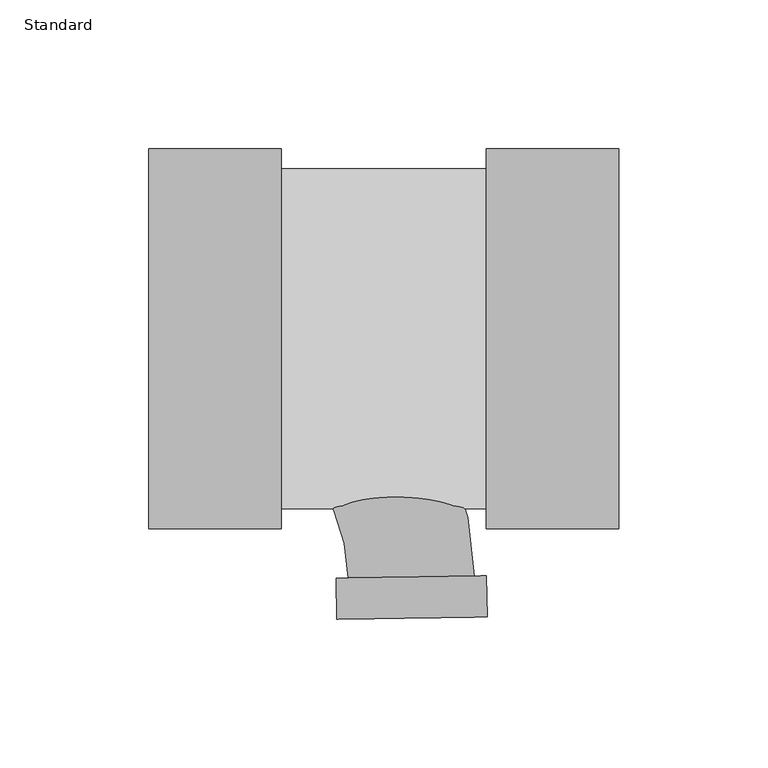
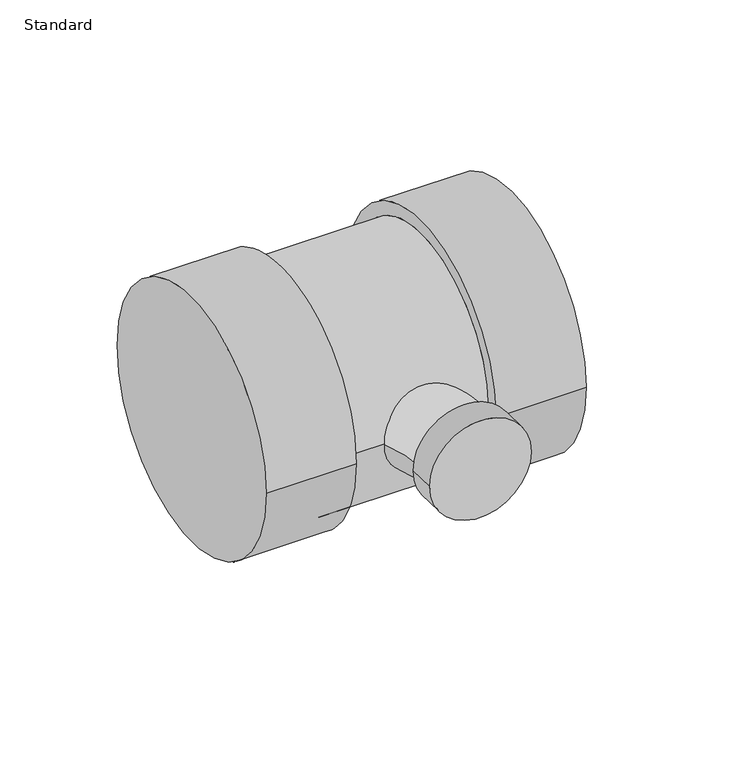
"""IFC4 building model written with IfcOpenShell, lengths in millimetres: pipe fitting geometry, EG-RCAN Té sanitaire de réduction - PVC - Nom. 40 - DWV : Standard."""

from ifc_helpers import new_model, si_unit, point, frame, origin, place, context, project, spatial, circle_curve, ellipse_curve, trimmed, source, transform, mapped, element, save
from ifc_brep_helpers import plane_surface, cylinder_surface, revolved_surface, advanced_brep


def standard_a27af633(model_context):
    return source(origin(), model_context, "Body", "AdvancedBrep", [
        advanced_brep(
        [(26.4644105, -63.754, 0.0), (26.4644105, 63.754, 0.0), (26.4644105, -57.15, 0.0), (26.4644105, 57.15, 0.0), (70.9144105, -63.754, 0.0), (70.9144105, 63.754, 0.0), (-42.4599062, 57.15, 0.0), (-42.4599062, -57.15, 0.0), (-86.9099063, -63.754, 0.0), (-86.9099062, 63.754, 0.0), (-42.4599063, -63.754, 0.0), (-42.4599062, 63.754, 0.0)],
        [
            (0, 1, circle_curve(frame((26.4644105, 0.0, 0.0), z_axis=(-1.0, 0.0, 0.0), x_axis=(0.0, 1.0, 0.0)), 63.754)),
            (1, 0, circle_curve(frame((26.4644105, 0.0, 0.0), z_axis=(-1.0, 0.0, 0.0), x_axis=(0.0, 1.0, 0.0)), 63.754)),
            (2, 3, circle_curve(frame((26.4644105, 0.0, 0.0), z_axis=(1.0, 0.0, 0.0), x_axis=(0.0, 0.0, -1.0)), 57.15)),
            (3, 2, circle_curve(frame((26.4644105, 0.0, 0.0), z_axis=(1.0, 0.0, 0.0), x_axis=(0.0, 0.0, 1.0)), 57.15)),
            (4, 5, circle_curve(frame((70.9144105, 0.0, 0.0), z_axis=(1.0, 0.0, 0.0), x_axis=(0.0, 1.0, 0.0)), 63.754)),
            (5, 4, circle_curve(frame((70.9144105, 0.0, 0.0), z_axis=(1.0, 0.0, 0.0), x_axis=(0.0, 1.0, 0.0)), 63.754)),
            (0, 4),
            (5, 1),
            (6, 3),
            (2, 7),
            (7, 6, circle_curve(frame((-42.4599063, 0.0, 0.0), z_axis=(1.0, 0.0, 0.0), x_axis=(0.0, 0.0, -1.0)), 57.15)),
            (6, 7, circle_curve(frame((-42.4599062, 0.0, 0.0), z_axis=(1.0, 0.0, 0.0), x_axis=(0.0, 0.0, 1.0)), 57.15)),
            (8, 9, circle_curve(frame((-86.9099062, 0.0, 0.0), z_axis=(-1.0, 0.0, 0.0), x_axis=(0.0, 1.0, 0.0)), 63.754)),
            (9, 8, circle_curve(frame((-86.9099062, 0.0, 0.0), z_axis=(-1.0, 0.0, 0.0), x_axis=(0.0, 1.0, 0.0)), 63.754)),
            (10, 11, circle_curve(frame((-42.4599062, 0.0, 0.0), z_axis=(1.0, 0.0, 0.0), x_axis=(0.0, 1.0, 0.0)), 63.754)),
            (11, 10, circle_curve(frame((-42.4599062, 0.0, 0.0), z_axis=(1.0, 0.0, 0.0), x_axis=(0.0, 1.0, 0.0)), 63.754)),
            (8, 10),
            (11, 9),
        ],
        [
            plane_surface(frame((26.4644105, 0.0, 0.0), z_axis=(-1.0, 0.0, 0.0), x_axis=(0.0, 0.0, 1.0))),
            plane_surface(frame((70.9144105, 0.0, 0.0), z_axis=(1.0, 0.0, 0.0), x_axis=(0.0, 0.0, 1.0))),
            cylinder_surface(frame((26.4644105, 0.0, 0.0), z_axis=(-1.0, 0.0, 0.0), x_axis=(0.0, 1.0, 0.0)), 63.754),
            cylinder_surface(frame((-42.4599062, 0.0, 0.0), z_axis=(1.0, 0.0, 0.0), x_axis=(0.0, 0.0, -1.0)), 57.15),
            cylinder_surface(frame((-42.4599062, 0.0, 0.0), z_axis=(1.0, 0.0, 0.0), x_axis=(0.0, 0.0, 1.0)), 57.15),
            plane_surface(frame((-86.9099062, 0.0, 0.0), z_axis=(-1.0, 0.0, 0.0), x_axis=(0.0, 0.0, 1.0))),
            plane_surface(frame((-42.4599062, 0.0, 0.0), z_axis=(1.0, 0.0, 0.0), x_axis=(0.0, 0.0, 1.0))),
            cylinder_surface(frame((-86.9099062, 0.0, 0.0), z_axis=(-1.0, 0.0, 0.0), x_axis=(0.0, 1.0, 0.0)), 63.754),
        ],
        [
            (0, [[1, 2], [3, 4]]),
            (1, [[5, 6]]),
            (2, [[-1, 7, -6, 8]]),
            (2, [[-2, -8, -5, -7]]),
            (3, [[9, -3, 10, 11]]),
            (4, [[-9, 12, -10, -4]]),
            (5, [[13, 14]]),
            (6, [[15, 16], [-11, -12]]),
            (7, [[-13, 17, -16, 18]]),
            (7, [[-14, -18, -15, -17]]),
        ],
    ),
        advanced_brep(
        [(-24.0641254, -80.3975774, 0.0), (26.4644105, -79.6397361, 0.0), (22.4018205, -79.7006679, 0.0), (-20.0015355, -80.3366455, 0.0), (-23.8580675, -94.1363447, 0.0), (26.6704684, -93.3785034, 0.0), (-80.0276562, -21.2040625, 0.0), (-80.0276562, 21.2040625, 0.0)],
        [
            (0, 1, circle_curve(frame((1.2001425, -80.0186567, 0.0), z_axis=(-0.014996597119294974, 0.9998875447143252, 0.0), x_axis=(0.9998875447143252, 0.014996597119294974, 0.0)), 25.2671094)),
            (1, 0, circle_curve(frame((1.2001425, -80.0186567, 0.0), z_axis=(-0.014996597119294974, 0.9998875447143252, 0.0), x_axis=(0.9998875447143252, 0.014996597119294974, 0.0)), 25.2671094)),
            (2, 3, circle_curve(frame((1.2001425, -80.0186567, 0.0), z_axis=(0.014996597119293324, -0.9998875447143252, 0.0), x_axis=(0.9998875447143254, 0.01499659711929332, 0.0)), 21.2040625)),
            (3, 2, circle_curve(frame((1.2001425, -80.0186567, 0.0), z_axis=(0.014996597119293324, -0.9998875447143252, 0.0), x_axis=(0.9998875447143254, 0.01499659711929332, 0.0)), 21.2040625)),
            (4, 5, circle_curve(frame((1.4062005, -93.757424, 0.0), z_axis=(0.014996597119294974, -0.9998875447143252, 0.0), x_axis=(0.9998875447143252, 0.014996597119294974, 0.0)), 25.2671094)),
            (5, 4, circle_curve(frame((1.4062005, -93.757424, 0.0), z_axis=(0.014996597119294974, -0.9998875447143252, 0.0), x_axis=(0.9998875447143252, 0.014996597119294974, 0.0)), 25.2671094)),
            (0, 4),
            (5, 1),
            (6, 7, circle_curve(frame((-80.0276562, 0.0, 0.0), z_axis=(-1.0000000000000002, 0.0, 0.0), x_axis=(0.0, 1.0, 0.0)), 21.2040625)),
            (7, 6, circle_curve(frame((-80.0276562, 0.0, 0.0), z_axis=(-1.0000000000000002, 0.0, 0.0), x_axis=(0.0, 1.0, 0.0)), 21.2040625)),
            (6, 3, circle_curve(frame((-80.0276562, -81.2369343, 0.0), z_axis=(0.0, 0.0, -1.0), x_axis=(0.0, 1.0, 0.0)), 60.0328718)),
            (2, 7, circle_curve(frame((-80.0276562, -81.2369343, 0.0), z_axis=(0.0, 0.0, 1.0), x_axis=(0.0, 1.0, 0.0)), 102.4409968)),
        ],
        [
            plane_surface(frame((1.2001425, -80.0186567, 0.0), z_axis=(-0.014996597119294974, 0.9998875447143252, 0.0), x_axis=(0.0, 0.0, 1.0))),
            plane_surface(frame((1.4062005, -93.757424, 0.0), z_axis=(0.014996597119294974, -0.9998875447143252, 0.0), x_axis=(0.0, 0.0, 1.0))),
            cylinder_surface(frame((1.2001425, -80.0186567, 0.0), z_axis=(-0.014996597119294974, 0.9998875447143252, 0.0), x_axis=(0.9998875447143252, 0.014996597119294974, 0.0)), 25.2671094),
            plane_surface(frame((-80.0276562, 0.0, 0.0), z_axis=(-1.0, 0.0, 0.0), x_axis=(0.0, 0.0, 1.0))),
            revolved_surface(trimmed(ellipse_curve(frame((-80.0276562, 0.0, 0.0), z_axis=(-1.0000000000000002, 0.0, 0.0), x_axis=(0.0, 1.0, 0.0)), 21.2040625, 21.2040625), [point((-80.0276562, -21.2040625, 0.0))], [point((-80.0276562, 21.2040625, 0.0))], True, "CARTESIAN"), (-80.0276562, -81.2369343, 0.0), (0.0, 0.0, -1.0000000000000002)),
            revolved_surface(trimmed(ellipse_curve(frame((-80.0276562, 0.0, 0.0), z_axis=(-1.0000000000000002, 0.0, 0.0), x_axis=(0.0, 1.0, 0.0)), 21.2040625, 21.2040625), [point((-80.0276562, 21.2040625, 0.0))], [point((-80.0276562, -21.2040625, 0.0))], True, "CARTESIAN"), (-80.0276562, -81.2369343, 0.0), (0.0, 0.0, -1.0000000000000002)),
        ],
        [
            (0, [[1, 2], [3, 4]]),
            (1, [[5, 6]]),
            (2, [[-1, 7, -6, 8]]),
            (2, [[-2, -8, -5, -7]]),
            (3, [[9, 10]]),
            (4, [[-9, 11, -3, 12]]),
            (5, [[-10, -12, -4, -11]]),
        ],
    ),
    ])


if __name__ == "__main__":
    model = new_model("IFC4")
    model_context = context("Model", 3, world=origin())
    ifc_project = project(units=[si_unit("LENGTHUNIT", "METRE", prefix="MILLI")], contexts=[model_context])
    site = spatial("IfcSite", under=ifc_project)
    building = spatial("IfcBuilding", under=site)
    placement = place(None, origin())
    standard_shape = standard_a27af633(model_context)
    element("IfcPipeFitting", 1, ObjectType="EG-RCAN Té sanitaire de réduction - PVC - Nom. 40 - DWV : Standard", at=placement, inside=building, context=model_context, shape_type="MappedRepresentation", body=[
        mapped(standard_shape, transform((0.0, 0.0, 0.0), x_axis=(1.0, 0.0, 0.0), y_axis=(0.0, 1.0, 0.0), z_axis=(0.0, 0.0, 1.0))),
    ])
    save(model, "model.ifc")
